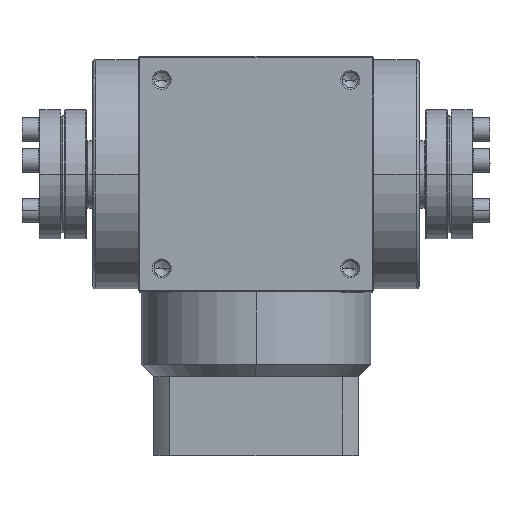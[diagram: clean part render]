
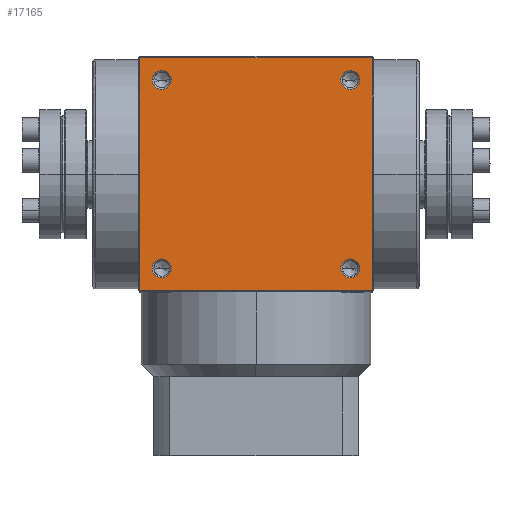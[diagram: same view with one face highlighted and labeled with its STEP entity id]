
A CAD part, top view. The second image highlights one B-rep face of the part: STEP entity #17165.
In plain terms, the highlighted planar face has unit normal (0, 0, 1).
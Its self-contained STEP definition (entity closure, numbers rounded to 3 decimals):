
#105 = VERTEX_POINT ( 'NONE', #13171 ) ;
#181 = ORIENTED_EDGE ( 'NONE', *, *, #7714, .F. ) ;
#203 = LINE ( 'NONE', #7295, #17574 ) ;
#693 = CIRCLE ( 'NONE', #12595, 3. ) ;
#919 = FACE_OUTER_BOUND ( 'NONE', #18264, .T. ) ;
#954 = FACE_BOUND ( 'NONE', #10015, .T. ) ;
#976 = FACE_BOUND ( 'NONE', #8806, .T. ) ;
#1010 = FACE_BOUND ( 'NONE', #11197, .T. ) ;
#1365 = CIRCLE ( 'NONE', #5629, 3. ) ;
#1371 = VECTOR ( 'NONE', #6036, 1000. ) ;
#1390 = LINE ( 'NONE', #15880, #1371 ) ;
#1423 = FACE_BOUND ( 'NONE', #13193, .T. ) ;
#1666 = CARTESIAN_POINT ( 'NONE',  ( -30., 30., 37.5 ) ) ;
#1811 = CARTESIAN_POINT ( 'NONE',  ( 30., 30., 37.5 ) ) ;
#2066 = EDGE_CURVE ( 'NONE', #10429, #13365, #2429, .T. ) ;
#2313 = EDGE_CURVE ( 'NONE', #2974, #12457, #11285, .T. ) ;
#2429 = CIRCLE ( 'NONE', #17105, 3. ) ;
#2584 = EDGE_CURVE ( 'NONE', #13365, #10429, #2674, .T. ) ;
#2674 = CIRCLE ( 'NONE', #6530, 3. ) ;
#2974 = VERTEX_POINT ( 'NONE', #13422 ) ;
#3086 = DIRECTION ( 'NONE',  ( 0., -1., 0. ) ) ;
#3231 = DIRECTION ( 'NONE',  ( 0., -1., 0. ) ) ;
#3261 = ORIENTED_EDGE ( 'NONE', *, *, #7221, .F. ) ;
#3564 = ORIENTED_EDGE ( 'NONE', *, *, #12760, .F. ) ;
#3879 = CARTESIAN_POINT ( 'NONE',  ( 37., 37., 37.5 ) ) ;
#3974 = CARTESIAN_POINT ( 'NONE',  ( 30., -30., 37.5 ) ) ;
#4106 = CARTESIAN_POINT ( 'NONE',  ( 37., -37., 37.5 ) ) ;
#4314 = DIRECTION ( 'NONE',  ( 0., 0., 1. ) ) ;
#4453 = EDGE_CURVE ( 'NONE', #12043, #105, #8076, .T. ) ;
#4509 = AXIS2_PLACEMENT_3D ( 'NONE', #7340, #17268, #8735 ) ;
#4740 = CARTESIAN_POINT ( 'NONE',  ( 37., 0., 37.5 ) ) ;
#4834 = CARTESIAN_POINT ( 'NONE',  ( -30., -30., 37.5 ) ) ;
#4990 = VECTOR ( 'NONE', #6183, 1000. ) ;
#5034 = AXIS2_PLACEMENT_3D ( 'NONE', #16262, #7742, #17671 ) ;
#5107 = AXIS2_PLACEMENT_3D ( 'NONE', #1666, #11479, #3086 ) ;
#5359 = DIRECTION ( 'NONE',  ( 0., -1., 0. ) ) ;
#5439 = VERTEX_POINT ( 'NONE', #8170 ) ;
#5629 = AXIS2_PLACEMENT_3D ( 'NONE', #4834, #14663, #6220 ) ;
#5877 = DIRECTION ( 'NONE',  ( 1., 0., 0. ) ) ;
#6036 = DIRECTION ( 'NONE',  ( 0., 1., 0. ) ) ;
#6046 = CARTESIAN_POINT ( 'NONE',  ( -30., -33., 37.5 ) ) ;
#6183 = DIRECTION ( 'NONE',  ( 0., -1., 0. ) ) ;
#6220 = DIRECTION ( 'NONE',  ( 0., -1., 0. ) ) ;
#6530 = AXIS2_PLACEMENT_3D ( 'NONE', #7778, #17696, #9173 ) ;
#6923 = ORIENTED_EDGE ( 'NONE', *, *, #2313, .F. ) ;
#6965 = VERTEX_POINT ( 'NONE', #6046 ) ;
#7043 = DIRECTION ( 'NONE',  ( 1., 0., 0. ) ) ;
#7163 = AXIS2_PLACEMENT_3D ( 'NONE', #12689, #4314, #14112 ) ;
#7200 = ORIENTED_EDGE ( 'NONE', *, *, #4453, .F. ) ;
#7221 = EDGE_CURVE ( 'NONE', #15779, #7989, #203, .T. ) ;
#7295 = CARTESIAN_POINT ( 'NONE',  ( 0., 37., 37.5 ) ) ;
#7340 = CARTESIAN_POINT ( 'NONE',  ( -30., -30., 37.5 ) ) ;
#7656 = LINE ( 'NONE', #4740, #4990 ) ;
#7714 = EDGE_CURVE ( 'NONE', #12457, #2974, #693, .T. ) ;
#7742 = DIRECTION ( 'NONE',  ( 0., 0., 1. ) ) ;
#7778 = CARTESIAN_POINT ( 'NONE',  ( 30., -30., 37.5 ) ) ;
#7856 = CARTESIAN_POINT ( 'NONE',  ( 30., 27., 37.5 ) ) ;
#7966 = ORIENTED_EDGE ( 'NONE', *, *, #17114, .F. ) ;
#7989 = VERTEX_POINT ( 'NONE', #3879 ) ;
#8076 = CIRCLE ( 'NONE', #7163, 3. ) ;
#8170 = CARTESIAN_POINT ( 'NONE',  ( -37., -37., 37.5 ) ) ;
#8735 = DIRECTION ( 'NONE',  ( 0., -1., 0. ) ) ;
#8806 = EDGE_LOOP ( 'NONE', ( #7966, #3564 ) ) ;
#8873 = ORIENTED_EDGE ( 'NONE', *, *, #2584, .F. ) ;
#9161 = DIRECTION ( 'NONE',  ( -1., 0., 0. ) ) ;
#9173 = DIRECTION ( 'NONE',  ( 0., -1., 0. ) ) ;
#9232 = ORIENTED_EDGE ( 'NONE', *, *, #12938, .T. ) ;
#9787 = ORIENTED_EDGE ( 'NONE', *, *, #15214, .F. ) ;
#9789 = CARTESIAN_POINT ( 'NONE',  ( 0., -37., 37.5 ) ) ;
#10015 = EDGE_LOOP ( 'NONE', ( #14516, #8873 ) ) ;
#10429 = VERTEX_POINT ( 'NONE', #15541 ) ;
#10969 = CARTESIAN_POINT ( 'NONE',  ( -37., 37., 37.5 ) ) ;
#11006 = CARTESIAN_POINT ( 'NONE',  ( 30., -27., 37.5 ) ) ;
#11197 = EDGE_LOOP ( 'NONE', ( #181, #6923 ) ) ;
#11285 = CIRCLE ( 'NONE', #5034, 3. ) ;
#11454 = VERTEX_POINT ( 'NONE', #4106 ) ;
#11479 = DIRECTION ( 'NONE',  ( 0., 0., 1. ) ) ;
#11605 = EDGE_CURVE ( 'NONE', #105, #12043, #16650, .T. ) ;
#11629 = DIRECTION ( 'NONE',  ( 0., 0., 1. ) ) ;
#12043 = VERTEX_POINT ( 'NONE', #12107 ) ;
#12107 = CARTESIAN_POINT ( 'NONE',  ( -30., 27., 37.5 ) ) ;
#12227 = AXIS2_PLACEMENT_3D ( 'NONE', #16278, #17686, #9161 ) ;
#12457 = VERTEX_POINT ( 'NONE', #7856 ) ;
#12595 = AXIS2_PLACEMENT_3D ( 'NONE', #1811, #11629, #3231 ) ;
#12689 = CARTESIAN_POINT ( 'NONE',  ( -30., 30., 37.5 ) ) ;
#12760 = EDGE_CURVE ( 'NONE', #15650, #6965, #15490, .T. ) ;
#12938 = EDGE_CURVE ( 'NONE', #5439, #11454, #14916, .T. ) ;
#13171 = CARTESIAN_POINT ( 'NONE',  ( -30., 33., 37.5 ) ) ;
#13193 = EDGE_LOOP ( 'NONE', ( #7200, #16316 ) ) ;
#13365 = VERTEX_POINT ( 'NONE', #11006 ) ;
#13422 = CARTESIAN_POINT ( 'NONE',  ( 30., 33., 37.5 ) ) ;
#13770 = DIRECTION ( 'NONE',  ( 0., 0., 1. ) ) ;
#14112 = DIRECTION ( 'NONE',  ( 0., -1., 0. ) ) ;
#14516 = ORIENTED_EDGE ( 'NONE', *, *, #2066, .F. ) ;
#14663 = DIRECTION ( 'NONE',  ( 0., 0., 1. ) ) ;
#14785 = PLANE ( 'NONE',  #12227 ) ;
#14815 = ORIENTED_EDGE ( 'NONE', *, *, #17030, .F. ) ;
#14916 = LINE ( 'NONE', #9789, #15020 ) ;
#15020 = VECTOR ( 'NONE', #7043, 1000. ) ;
#15214 = EDGE_CURVE ( 'NONE', #7989, #11454, #7656, .T. ) ;
#15490 = CIRCLE ( 'NONE', #4509, 3. ) ;
#15541 = CARTESIAN_POINT ( 'NONE',  ( 30., -33., 37.5 ) ) ;
#15650 = VERTEX_POINT ( 'NONE', #17533 ) ;
#15779 = VERTEX_POINT ( 'NONE', #10969 ) ;
#15880 = CARTESIAN_POINT ( 'NONE',  ( -37., 0., 37.5 ) ) ;
#16262 = CARTESIAN_POINT ( 'NONE',  ( 30., 30., 37.5 ) ) ;
#16278 = CARTESIAN_POINT ( 'NONE',  ( 37., -37., 37.5 ) ) ;
#16316 = ORIENTED_EDGE ( 'NONE', *, *, #11605, .F. ) ;
#16650 = CIRCLE ( 'NONE', #5107, 3. ) ;
#17030 = EDGE_CURVE ( 'NONE', #5439, #15779, #1390, .T. ) ;
#17105 = AXIS2_PLACEMENT_3D ( 'NONE', #3974, #13770, #5359 ) ;
#17114 = EDGE_CURVE ( 'NONE', #6965, #15650, #1365, .T. ) ;
#17165 = ADVANCED_FACE ( 'NONE', ( #1423, #1010, #976, #954, #919 ), #14785, .F. ) ;
#17268 = DIRECTION ( 'NONE',  ( 0., 0., 1. ) ) ;
#17533 = CARTESIAN_POINT ( 'NONE',  ( -30., -27., 37.5 ) ) ;
#17574 = VECTOR ( 'NONE', #5877, 1000. ) ;
#17671 = DIRECTION ( 'NONE',  ( 0., -1., 0. ) ) ;
#17686 = DIRECTION ( 'NONE',  ( 0., 0., -1. ) ) ;
#17696 = DIRECTION ( 'NONE',  ( 0., 0., 1. ) ) ;
#18264 = EDGE_LOOP ( 'NONE', ( #9232, #9787, #3261, #14815 ) ) ;
